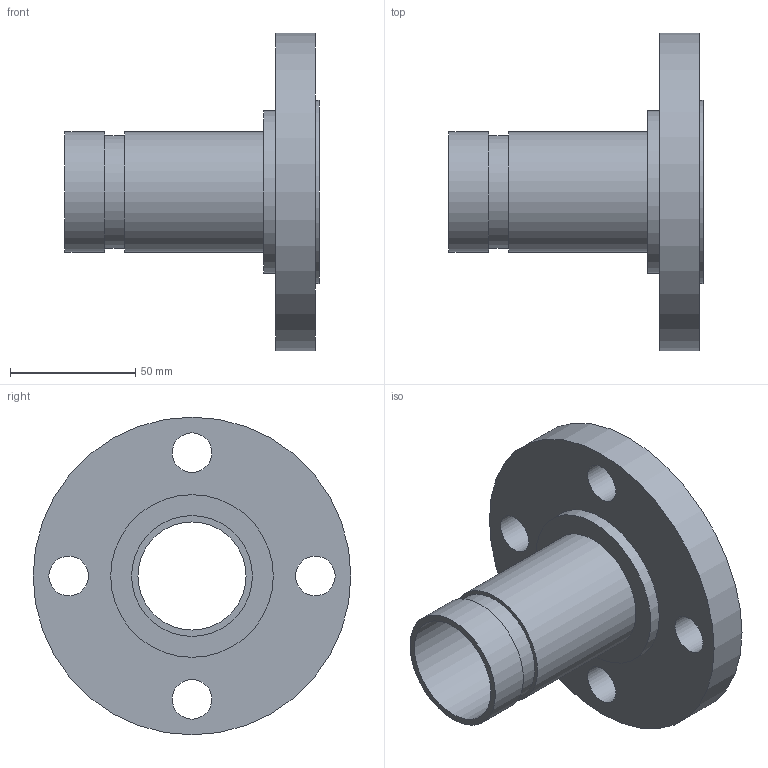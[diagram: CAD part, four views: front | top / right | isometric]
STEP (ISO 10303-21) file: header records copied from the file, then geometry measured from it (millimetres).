
FILE_DESCRIPTION(/* description */ ('VIC No 445R FLANGE ADAPTER NIPPE (ANSI)','CAx-IF Rec.Pracs.---Representation and Presentation of Product Manufacturing Information (PMI)---4.0---2014-10-13'),/* implementation_level */ '2;1');
FILE_NAME(/* name */ 'C:\Users\kkamble\AppData\Roaming\Autodesk\ApplicationPlugins\Back Up\Victaulic_SS-OGS_Flanged Adapter Nipple_CL 150 RF_Style 445R (OGSxFLG)\Victaulic_SS-OGS_Flanged Adapter Nipple_CL 150 RF_Style 445R (OGSxFLG)_1.5 (40).stp',/* time_stamp */ '2020-08-27T09:30:53+05:00',/* author */ ('jbrannon'),/* organization */ ('Victaulic'),/* preprocessor_version */ 'ST-DEVELOPER v17.2',/* originating_system */ 'Autodesk Inventor 2019',/* authorisation */ '');
FILE_SCHEMA (('AP242_MANAGED_MODEL_BASED_3D_ENGINEERING_MIM_LF { 1 0 10303 442 1 1 4 }'));
Length unit declared in the file: inch
Products named in the file (1): 445R-01.5
Bounding box: 101.6 x 127 x 127 mm (x, y, z)
Volume: 204398.5 mm3; surface area: 57811.2 mm2
Topology: 1 solids, 1 shells, 18 faces, 47 edges, 36 vertices
Faces by surface type: cylinder 11, plane 7
Full cylindrical faces by diameter (mm): 15.875 x4, 43.18 x1, 45.085 x1, 48.26 x2, 65.024 x1, 73.152 x1, 127 x1
Entity records: 769 total; most frequent: DIRECTION 147, CARTESIAN_POINT 119, ORIENTED_EDGE 94, AXIS2_PLACEMENT_3D 68, EDGE_CURVE 47, CIRCLE 36, VERTEX_POINT 36, EDGE_LOOP 33
